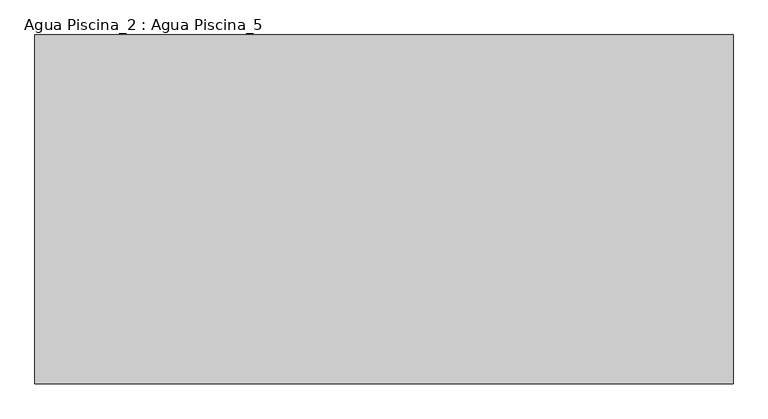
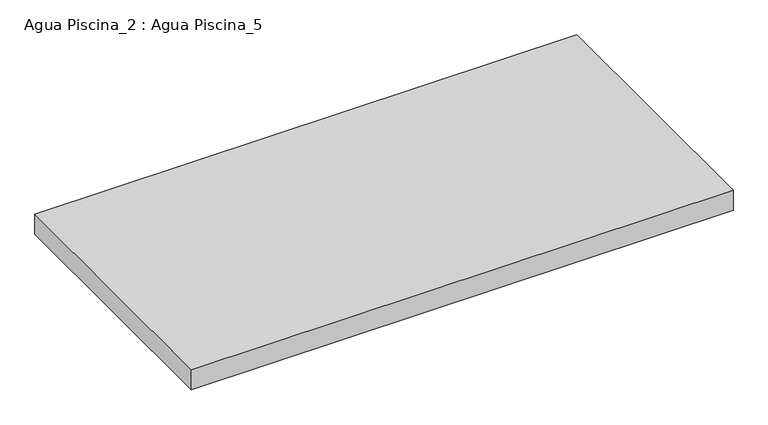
"""IFC4 building model written with IfcOpenShell, lengths in millimetres: proxy geometry, Agua Piscina_2 : Agua Piscina_5."""

from ifc_helpers import new_model, si_unit, frame, origin, place, context, project, spatial, polyline, outline, extrude, source, transform, mapped, element, save


def agua_piscina_2_agua_piscina_5_6e25bc6c(model_context):
    return source(origin(), model_context, "Body", "SweptSolid", [
        extrude(outline(polyline([(-6076.2314, -40284.228448), (-6076.2314, -44284.228448), (-14076.2314, -44284.228448), (-14076.2314, -40284.228448), (-6076.2314, -40284.228448)])), frame((0.0, 0.0, -486.6767702), z_axis=(0.0, 0.0, 1.0), x_axis=(1.0, 0.0, 0.0)), (0.0, 0.0, 1.0), 311.2365601),
    ])


if __name__ == "__main__":
    model = new_model("IFC4")
    model_context = context("Model", 3, world=origin())
    ifc_project = project(units=[si_unit("LENGTHUNIT", "METRE", prefix="MILLI")], contexts=[model_context])
    site = spatial("IfcSite", under=ifc_project)
    building = spatial("IfcBuilding", under=site)
    placement = place(None, origin())
    agua_piscina_2_agua_piscina_5_shape = agua_piscina_2_agua_piscina_5_6e25bc6c(model_context)
    element("IfcBuildingElementProxy", 1, Name="Agua Piscina_2 : Agua Piscina_5", ObjectType="Agua Piscina_2 : Agua Piscina_5", at=placement, inside=building, context=model_context, shape_type="MappedRepresentation", body=[
        mapped(agua_piscina_2_agua_piscina_5_shape, transform((0.0, 0.0, 0.0), x_axis=(1.0, 0.0, 0.0), y_axis=(0.0, 1.0, 0.0), z_axis=(0.0, 0.0, 1.0))),
    ])
    save(model, "model.ifc")
